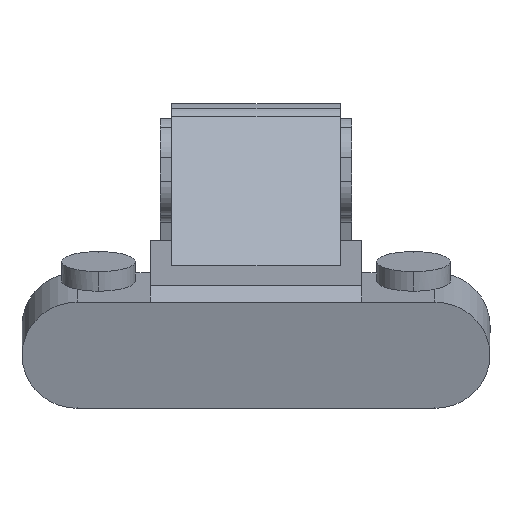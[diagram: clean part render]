
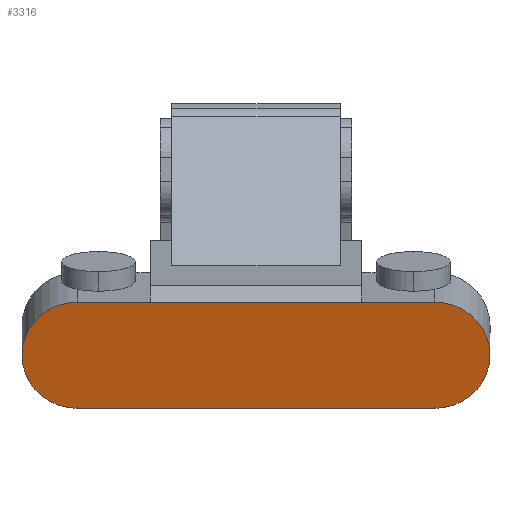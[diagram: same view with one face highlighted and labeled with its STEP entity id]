
A CAD part, top view. The second image highlights one B-rep face of the part: STEP entity #3316.
In plain terms, the highlighted planar face has unit normal (0, -0.273, 0.962).
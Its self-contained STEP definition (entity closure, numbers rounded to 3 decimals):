
#30 = VERTEX_POINT ( 'NONE', #3921 ) ;
#115 = DIRECTION ( 'NONE',  ( 0., -0.962, -0.273 ) ) ;
#273 = ORIENTED_EDGE ( 'NONE', *, *, #708, .T. ) ;
#483 = ORIENTED_EDGE ( 'NONE', *, *, #4647, .T. ) ;
#504 = CARTESIAN_POINT ( 'NONE',  ( 15.9, -8.186, 9.376 ) ) ;
#514 = CARTESIAN_POINT ( 'NONE',  ( -7.25, -12.9, 8.037 ) ) ;
#567 = LINE ( 'NONE', #2135, #3114 ) ;
#569 = AXIS2_PLACEMENT_3D ( 'NONE', #1722, #3611, #115 ) ;
#596 = CIRCLE ( 'NONE', #2566, 4.9 ) ;
#708 = EDGE_CURVE ( 'NONE', #2753, #1547, #596, .T. ) ;
#716 = LINE ( 'NONE', #1078, #2058 ) ;
#918 = VECTOR ( 'NONE', #3334, 1000. ) ;
#1078 = CARTESIAN_POINT ( 'NONE',  ( -9.4, -3.473, 10.715 ) ) ;
#1081 = CIRCLE ( 'NONE', #4759, 4.9 ) ;
#1282 = DIRECTION ( 'NONE',  ( 1., 0., 0. ) ) ;
#1295 = CARTESIAN_POINT ( 'NONE',  ( 9.4, -3.473, 10.715 ) ) ;
#1330 = CARTESIAN_POINT ( 'NONE',  ( -15.9, -8.186, 9.376 ) ) ;
#1379 = DIRECTION ( 'NONE',  ( 0., -0.273, 0.962 ) ) ;
#1465 = DIRECTION ( 'NONE',  ( -1., 0., 0. ) ) ;
#1475 = EDGE_LOOP ( 'NONE', ( #4019, #4920, #2202, #3617, #483, #273 ) ) ;
#1488 = LINE ( 'NONE', #3727, #918 ) ;
#1547 = VERTEX_POINT ( 'NONE', #4461 ) ;
#1713 = EDGE_CURVE ( 'NONE', #1547, #2405, #3176, .T. ) ;
#1722 = CARTESIAN_POINT ( 'NONE',  ( 15.9, -8.186, 9.376 ) ) ;
#2058 = VECTOR ( 'NONE', #1465, 1000. ) ;
#2135 = CARTESIAN_POINT ( 'NONE',  ( -9.4, -3.473, 10.715 ) ) ;
#2185 = EDGE_CURVE ( 'NONE', #2405, #4966, #1081, .T. ) ;
#2202 = ORIENTED_EDGE ( 'NONE', *, *, #2619, .T. ) ;
#2405 = VERTEX_POINT ( 'NONE', #4213 ) ;
#2424 = DIRECTION ( 'NONE',  ( 0., -0.273, 0.962 ) ) ;
#2558 = DIRECTION ( 'NONE',  ( 0., -0.962, -0.273 ) ) ;
#2566 = AXIS2_PLACEMENT_3D ( 'NONE', #1330, #1379, #2558 ) ;
#2619 = EDGE_CURVE ( 'NONE', #4966, #4088, #716, .T. ) ;
#2753 = VERTEX_POINT ( 'NONE', #4268 ) ;
#3114 = VECTOR ( 'NONE', #3313, 1000. ) ;
#3176 = LINE ( 'NONE', #514, #4050 ) ;
#3190 = DIRECTION ( 'NONE',  ( 0., -0.962, -0.273 ) ) ;
#3313 = DIRECTION ( 'NONE',  ( -1., 0., 0. ) ) ;
#3316 = ADVANCED_FACE ( 'NONE', ( #4073 ), #3639, .T. ) ;
#3334 = DIRECTION ( 'NONE',  ( -1., 0., 0. ) ) ;
#3611 = DIRECTION ( 'NONE',  ( 0., -0.273, 0.962 ) ) ;
#3617 = ORIENTED_EDGE ( 'NONE', *, *, #4779, .T. ) ;
#3639 = PLANE ( 'NONE',  #569 ) ;
#3727 = CARTESIAN_POINT ( 'NONE',  ( -9.4, -3.473, 10.715 ) ) ;
#3921 = CARTESIAN_POINT ( 'NONE',  ( -9.4, -3.473, 10.715 ) ) ;
#4019 = ORIENTED_EDGE ( 'NONE', *, *, #1713, .T. ) ;
#4046 = CARTESIAN_POINT ( 'NONE',  ( 15.9, -3.473, 10.715 ) ) ;
#4050 = VECTOR ( 'NONE', #1282, 1000. ) ;
#4073 = FACE_OUTER_BOUND ( 'NONE', #1475, .T. ) ;
#4088 = VERTEX_POINT ( 'NONE', #1295 ) ;
#4213 = CARTESIAN_POINT ( 'NONE',  ( 15.9, -12.9, 8.037 ) ) ;
#4268 = CARTESIAN_POINT ( 'NONE',  ( -15.9, -3.473, 10.715 ) ) ;
#4461 = CARTESIAN_POINT ( 'NONE',  ( -15.9, -12.9, 8.037 ) ) ;
#4647 = EDGE_CURVE ( 'NONE', #30, #2753, #1488, .T. ) ;
#4759 = AXIS2_PLACEMENT_3D ( 'NONE', #504, #2424, #3190 ) ;
#4779 = EDGE_CURVE ( 'NONE', #4088, #30, #567, .T. ) ;
#4920 = ORIENTED_EDGE ( 'NONE', *, *, #2185, .T. ) ;
#4966 = VERTEX_POINT ( 'NONE', #4046 ) ;
